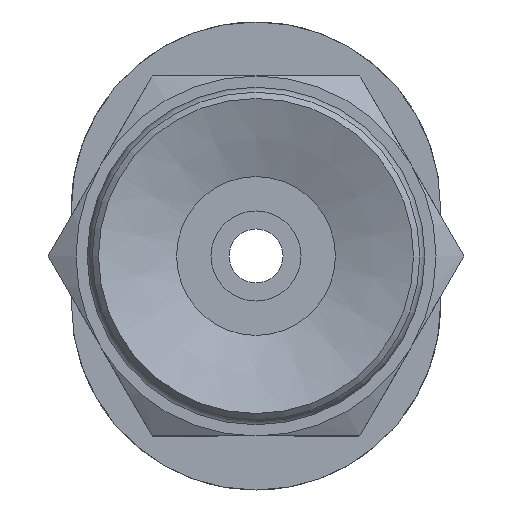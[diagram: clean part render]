
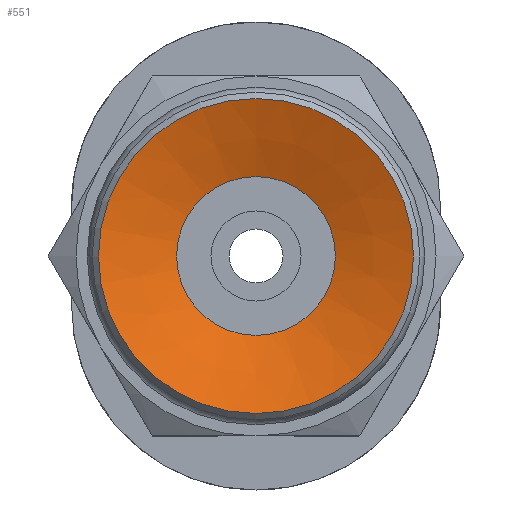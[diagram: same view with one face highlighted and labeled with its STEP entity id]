
A CAD part, front view. The second image highlights one B-rep face of the part: STEP entity #551.
In plain terms, the highlighted conical face has half-angle 70 degrees and reference radius 3.5 mm.
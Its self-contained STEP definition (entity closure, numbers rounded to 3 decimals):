
#551=ADVANCED_FACE('',(#847,#848),#849,.F.);
#847=FACE_BOUND('',#1226,.T.);
#848=FACE_OUTER_BOUND('',#1227,.T.);
#849=CONICAL_SURFACE('',#1228,3.5,1.222);
#1226=EDGE_LOOP('',(#2184));
#1227=EDGE_LOOP('',(#2185));
#1228=AXIS2_PLACEMENT_3D('',#2186,#2187,#2188);
#2184=ORIENTED_EDGE('',*,*,#2676,.F.);
#2185=ORIENTED_EDGE('',*,*,#2657,.T.);
#2186=CARTESIAN_POINT('',(0.0,0.0,0.0));
#2187=DIRECTION('',(-0.0,-1.0,0.));
#2188=DIRECTION('',(0.0,0.,-1.0));
#2657=EDGE_CURVE('',#2997,#2997,#2998,.T.);
#2676=EDGE_CURVE('',#3035,#3035,#3036,.T.);
#2997=VERTEX_POINT('',#3723);
#2998=CIRCLE('',#3724,3.5);
#3035=VERTEX_POINT('',#3761);
#3036=CIRCLE('',#3762,1.765);
#3723=CARTESIAN_POINT('',(0.0,0.,-3.5));
#3724=AXIS2_PLACEMENT_3D('',#4388,#4389,#4390);
#3761=CARTESIAN_POINT('',(0.0,0.632,-1.765));
#3762=AXIS2_PLACEMENT_3D('',#4445,#4446,#4447);
#4388=CARTESIAN_POINT('',(0.0,0.0,0.0));
#4389=DIRECTION('',(0.0,-1.0,0.));
#4390=DIRECTION('',(0.0,0.,-1.0));
#4445=CARTESIAN_POINT('',(0.0,0.632,0.0));
#4446=DIRECTION('',(0.0,-1.0,0.));
#4447=DIRECTION('',(0.0,0.,-1.0));
